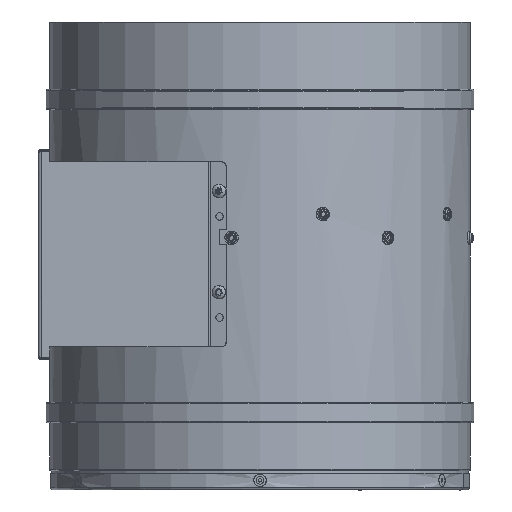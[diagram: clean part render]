
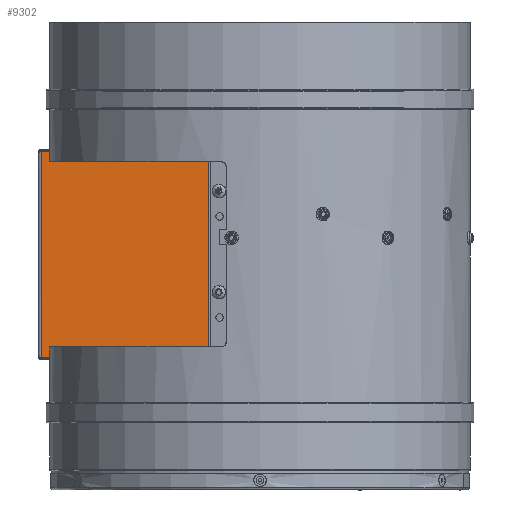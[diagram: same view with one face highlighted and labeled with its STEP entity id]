
A CAD part, left-side view. The second image highlights one B-rep face of the part: STEP entity #9302.
In plain terms, the highlighted planar face has unit normal (-1, 0, 0).
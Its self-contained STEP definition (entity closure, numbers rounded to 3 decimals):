
#5459 = ORIENTED_EDGE ( 'NONE', *, *, #24239, .F. ) ;
#5880 = ORIENTED_EDGE ( 'NONE', *, *, #24238, .T. ) ;
#5952 = ORIENTED_EDGE ( 'NONE', *, *, #24378, .F. ) ;
#6055 = ORIENTED_EDGE ( 'NONE', *, *, #24114, .T. ) ;
#6319 = PLANE ( 'NONE',  #25826 ) ;
#6637 = DIRECTION ( 'NONE',  ( 1., 0., 0. ) ) ;
#6748 = DIRECTION ( 'NONE',  ( 0., 0., -1. ) ) ;
#6753 = CARTESIAN_POINT ( 'NONE',  ( -122.677, 125., -1079. ) ) ;
#9302 = ADVANCED_FACE ( 'NONE', ( #14542 ), #6319, .F. ) ;
#10760 = CARTESIAN_POINT ( 'NONE',  ( -122.677, 125., 147.3 ) ) ;
#10762 = DIRECTION ( 'NONE',  ( 0., 1., 0. ) ) ;
#10764 = DIRECTION ( 'NONE',  ( 0., 0., 1. ) ) ;
#10875 = CARTESIAN_POINT ( 'NONE',  ( -122.677, 129.8, -1079. ) ) ;
#10883 = DIRECTION ( 'NONE',  ( 0., -1., 0. ) ) ;
#10889 = CARTESIAN_POINT ( 'NONE',  ( -122.677, 125., 269.7 ) ) ;
#11481 = DIRECTION ( 'NONE',  ( 0., 0., 1. ) ) ;
#11500 = CARTESIAN_POINT ( 'NONE',  ( -122.677, 125., -1079. ) ) ;
#11741 = CARTESIAN_POINT ( 'NONE',  ( -122.677, 30.77, 263.5 ) ) ;
#11742 = DIRECTION ( 'NONE',  ( 0., 1., 0. ) ) ;
#12516 = DIRECTION ( 'NONE',  ( 0., 1., 0. ) ) ;
#13103 = CARTESIAN_POINT ( 'NONE',  ( -122.677, 30.77, 153.5 ) ) ;
#13123 = CARTESIAN_POINT ( 'NONE',  ( -122.677, 30.77, 263.5 ) ) ;
#13125 = DIRECTION ( 'NONE',  ( 0., 0., -1. ) ) ;
#13442 = CARTESIAN_POINT ( 'NONE',  ( -122.677, 125., -1079. ) ) ;
#13447 = EDGE_LOOP ( 'NONE', ( #20588, #20590, #20530, #20525, #5952, #5880, #6055, #5459 ) ) ;
#13560 = DIRECTION ( 'NONE',  ( 0., 0., 1. ) ) ;
#13843 = VERTEX_POINT ( 'NONE', #21267 ) ;
#13848 = VERTEX_POINT ( 'NONE', #21274 ) ;
#14119 = VERTEX_POINT ( 'NONE', #21426 ) ;
#14126 = VERTEX_POINT ( 'NONE', #21147 ) ;
#14250 = VERTEX_POINT ( 'NONE', #21747 ) ;
#14320 = VERTEX_POINT ( 'NONE', #21595 ) ;
#14523 = VERTEX_POINT ( 'NONE', #21660 ) ;
#14542 = FACE_OUTER_BOUND ( 'NONE', #13447, .T. ) ;
#14620 = VERTEX_POINT ( 'NONE', #21701 ) ;
#17204 = LINE ( 'NONE', #10889, #17209 ) ;
#17206 = LINE ( 'NONE', #11741, #17208 ) ;
#17208 = VECTOR ( 'NONE', #11742, 1000. ) ;
#17209 = VECTOR ( 'NONE', #10883, 1000. ) ;
#17211 = LINE ( 'NONE', #10875, #17213 ) ;
#17213 = VECTOR ( 'NONE', #10764, 1000. ) ;
#17246 = VECTOR ( 'NONE', #11481, 1000. ) ;
#17295 = LINE ( 'NONE', #11500, #17246 ) ;
#17350 = VECTOR ( 'NONE', #10762, 1000. ) ;
#17352 = LINE ( 'NONE', #10760, #17350 ) ;
#20525 = ORIENTED_EDGE ( 'NONE', *, *, #24325, .F. ) ;
#20530 = ORIENTED_EDGE ( 'NONE', *, *, #24328, .T. ) ;
#20588 = ORIENTED_EDGE ( 'NONE', *, *, #24240, .F. ) ;
#20590 = ORIENTED_EDGE ( 'NONE', *, *, #24242, .F. ) ;
#21147 = CARTESIAN_POINT ( 'NONE',  ( -122.677, 125., 153.5 ) ) ;
#21267 = CARTESIAN_POINT ( 'NONE',  ( -122.677, 30.77, 153.5 ) ) ;
#21274 = CARTESIAN_POINT ( 'NONE',  ( -122.677, 129.8, 147.3 ) ) ;
#21426 = CARTESIAN_POINT ( 'NONE',  ( -122.677, 125., 147.3 ) ) ;
#21595 = CARTESIAN_POINT ( 'NONE',  ( -122.677, 129.8, 269.7 ) ) ;
#21660 = CARTESIAN_POINT ( 'NONE',  ( -122.677, 30.77, 263.5 ) ) ;
#21701 = CARTESIAN_POINT ( 'NONE',  ( -122.677, 125., 269.7 ) ) ;
#21747 = CARTESIAN_POINT ( 'NONE',  ( -122.677, 125., 263.5 ) ) ;
#24114 = EDGE_CURVE ( 'NONE', #14250, #14620, #17295, .T. ) ;
#24238 = EDGE_CURVE ( 'NONE', #14523, #14250, #17206, .T. ) ;
#24239 = EDGE_CURVE ( 'NONE', #14320, #14620, #17204, .T. ) ;
#24240 = EDGE_CURVE ( 'NONE', #13848, #14320, #17211, .T. ) ;
#24242 = EDGE_CURVE ( 'NONE', #14119, #13848, #17352, .T. ) ;
#24325 = EDGE_CURVE ( 'NONE', #13843, #14126, #26053, .T. ) ;
#24328 = EDGE_CURVE ( 'NONE', #14119, #14126, #25998, .T. ) ;
#24378 = EDGE_CURVE ( 'NONE', #14523, #13843, #25922, .T. ) ;
#25826 = AXIS2_PLACEMENT_3D ( 'NONE', #6753, #6637, #6748 ) ;
#25922 = LINE ( 'NONE', #13123, #26112 ) ;
#25942 = VECTOR ( 'NONE', #13560, 1000. ) ;
#25998 = LINE ( 'NONE', #13442, #25942 ) ;
#26053 = LINE ( 'NONE', #13103, #26113 ) ;
#26112 = VECTOR ( 'NONE', #13125, 1000. ) ;
#26113 = VECTOR ( 'NONE', #12516, 1000. ) ;
